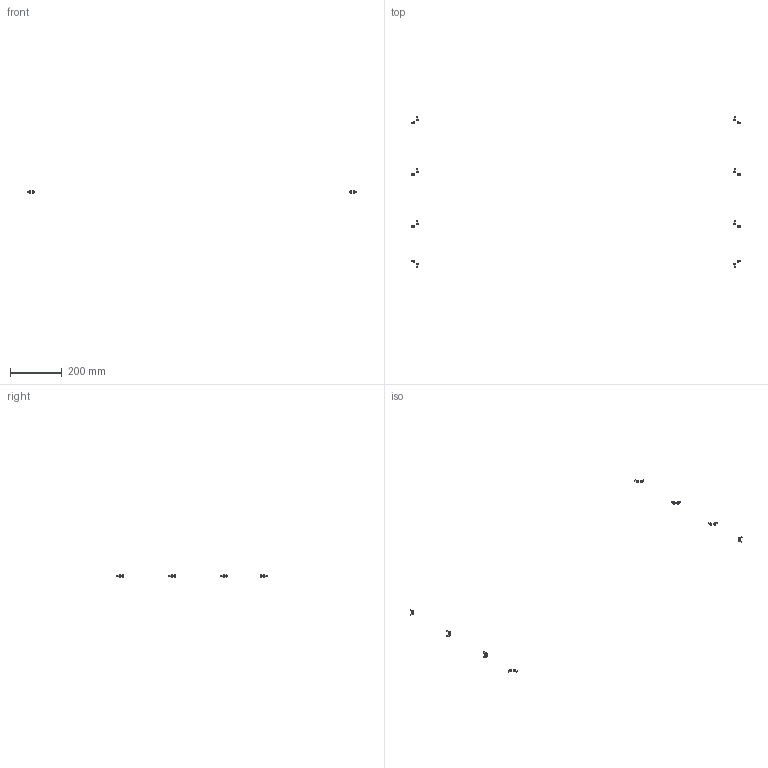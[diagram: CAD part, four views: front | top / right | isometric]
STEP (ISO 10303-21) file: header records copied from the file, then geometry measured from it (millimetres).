
FILE_DESCRIPTION(/* description */ (''),/* implementation_level */ '2;1');
FILE_NAME(/* name */ '12.frame-table#12.2#CB5-10',/* time_stamp */ '2014-12-01T20:19:39+01:00',/* author */ (''),/* organization */ (''),/* preprocessor_version */ 'ST-DEVELOPER v14',/* originating_system */ '',/* authorisation */ '');
FILE_SCHEMA (('AUTOMOTIVE_DESIGN'));
Length unit declared in the file: millimetre
Products named in the file (2): Document; screw DIN912-like, M5x10
Assembly tree (8 placements, depth 2):
  Document
    screw DIN912-like, M5x10  x8
Bounding box: 1271 x 581 x 8.5 mm (x, y, z)
Volume: 7013.4 mm3; surface area: 6820.8 mm2
Topology: 16 solids, 16 shells, 400 faces, 896 edges, 528 vertices
Faces by surface type: plane 240, bspline 160
Entity records: 12309 total; most frequent: CARTESIAN_POINT 5663, B_SPLINE_CURVE_WITH_KNOTS 1134, ORIENTED_EDGE 972, PCURVE 972, DEFINITIONAL_REPRESENTATION 972, SURFACE_CURVE 486, EDGE_CURVE 486, VERTEX_POINT 297
